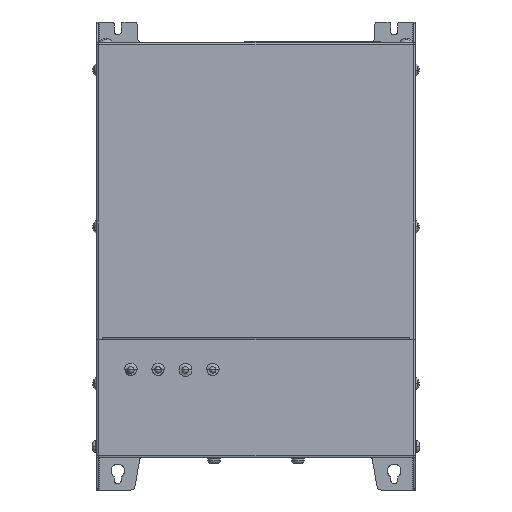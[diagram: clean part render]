
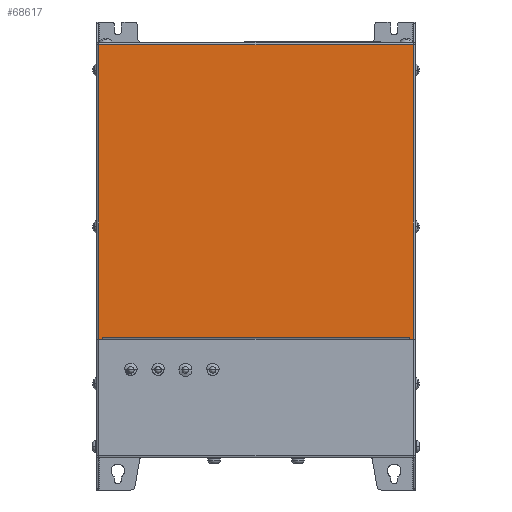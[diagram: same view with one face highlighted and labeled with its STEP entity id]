
A CAD part, front view. The second image highlights one B-rep face of the part: STEP entity #68617.
In plain terms, the highlighted planar face has unit normal (0, -1, 0).
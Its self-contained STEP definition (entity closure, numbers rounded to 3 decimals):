
#67959=DIRECTION('',(0.,0.,1.));
#67960=VECTOR('',#67959,215.9);
#67961=CARTESIAN_POINT('',(488.457,1198.606,-217.3));
#67962=LINE('',#67961,#67960);
#67967=CARTESIAN_POINT('',(260.457,1198.606,-216.8));
#67968=CARTESIAN_POINT('',(260.453,1198.606,
-216.895));
#67969=CARTESIAN_POINT('',(260.411,1198.606,
-217.059));
#67970=CARTESIAN_POINT('',(260.216,1198.606,
-217.254));
#67971=CARTESIAN_POINT('',(260.052,1198.606,
-217.297));
#67972=CARTESIAN_POINT('',(259.957,1198.606,-217.3));
#67974=DIRECTION('',(-1.,0.,0.));
#67975=VECTOR('',#67974,2.);
#67976=CARTESIAN_POINT('',(259.957,1198.606,-217.3));
#67977=LINE('',#67976,#67975);
#67978=DIRECTION('',(0.,0.,1.));
#67979=VECTOR('',#67978,0.1);
#67980=CARTESIAN_POINT('',(257.957,1198.606,-1.4));
#67981=LINE('',#67980,#67979);
#67982=DIRECTION('',(0.,0.,-1.));
#67983=VECTOR('',#67982,0.1);
#67984=CARTESIAN_POINT('',(488.457,1198.606,-1.3));
#67985=LINE('',#67984,#67983);
#67986=DIRECTION('',(-1.,0.,0.));
#67987=VECTOR('',#67986,2.);
#67988=CARTESIAN_POINT('',(488.457,1198.606,-217.3));
#67989=LINE('',#67988,#67987);
#67990=CARTESIAN_POINT('',(486.457,1198.606,-217.3));
#67991=CARTESIAN_POINT('',(486.362,1198.606,
-217.297));
#67992=CARTESIAN_POINT('',(486.197,1198.606,
-217.255));
#67993=CARTESIAN_POINT('',(486.002,1198.606,
-217.059));
#67994=CARTESIAN_POINT('',(485.96,1198.606,
-216.895));
#67995=CARTESIAN_POINT('',(485.957,1198.606,-216.8));
#67997=DIRECTION('',(0.,0.,1.));
#67998=VECTOR('',#67997,1.);
#67999=CARTESIAN_POINT('',(485.957,1198.606,-216.8));
#68000=LINE('',#67999,#67998);
#68001=DIRECTION('',(-1.,0.,0.));
#68002=VECTOR('',#68001,0.3);
#68003=CARTESIAN_POINT('',(485.957,1198.606,-215.8));
#68004=LINE('',#68003,#68002);
#68005=DIRECTION('',(0.,0.,-1.));
#68006=VECTOR('',#68005,0.5);
#68007=CARTESIAN_POINT('',(485.657,1198.606,-215.8));
#68008=LINE('',#68007,#68006);
#68009=DIRECTION('',(0.,0.,1.));
#68010=VECTOR('',#68009,0.5);
#68011=CARTESIAN_POINT('',(260.757,1198.606,-216.3));
#68012=LINE('',#68011,#68010);
#68013=DIRECTION('',(-1.,0.,0.));
#68014=VECTOR('',#68013,0.3);
#68015=CARTESIAN_POINT('',(260.757,1198.606,-215.8));
#68016=LINE('',#68015,#68014);
#68017=DIRECTION('',(0.,0.,-1.));
#68018=VECTOR('',#68017,1.);
#68019=CARTESIAN_POINT('',(260.457,1198.606,-215.8));
#68020=LINE('',#68019,#68018);
#68030=DIRECTION('',(0.,0.,-1.));
#68031=VECTOR('',#68030,215.9);
#68032=CARTESIAN_POINT('',(257.957,1198.606,-1.4));
#68033=LINE('',#68032,#68031);
#68071=DIRECTION('',(-1.,0.,0.));
#68072=VECTOR('',#68071,230.5);
#68073=CARTESIAN_POINT('',(488.457,1198.606,-1.3));
#68074=LINE('',#68073,#68072);
#68385=DIRECTION('',(1.,0.,0.));
#68386=VECTOR('',#68385,224.9);
#68387=CARTESIAN_POINT('',(260.757,1198.606,-216.3));
#68388=LINE('',#68387,#68386);
#68467=VERTEX_POINT('',#67967);
#68468=VERTEX_POINT('',#67972);
#68469=CARTESIAN_POINT('',(257.957,1198.606,-217.3));
#68470=VERTEX_POINT('',#68469);
#68471=CARTESIAN_POINT('',(257.957,1198.606,-1.4));
#68472=CARTESIAN_POINT('',(257.957,1198.606,-1.3));
#68473=VERTEX_POINT('',#68471);
#68474=VERTEX_POINT('',#68472);
#68475=CARTESIAN_POINT('',(488.457,1198.606,-1.3));
#68476=CARTESIAN_POINT('',(488.457,1198.606,-1.4));
#68477=VERTEX_POINT('',#68475);
#68478=VERTEX_POINT('',#68476);
#68479=CARTESIAN_POINT('',(488.457,1198.606,-217.3));
#68480=CARTESIAN_POINT('',(486.457,1198.606,-217.3));
#68481=VERTEX_POINT('',#68479);
#68482=VERTEX_POINT('',#68480);
#68483=VERTEX_POINT('',#67995);
#68484=CARTESIAN_POINT('',(485.957,1198.606,-215.8));
#68485=VERTEX_POINT('',#68484);
#68486=CARTESIAN_POINT('',(485.657,1198.606,-215.8));
#68487=VERTEX_POINT('',#68486);
#68488=CARTESIAN_POINT('',(485.657,1198.606,-216.3));
#68489=VERTEX_POINT('',#68488);
#68490=CARTESIAN_POINT('',(260.757,1198.606,-216.3));
#68491=CARTESIAN_POINT('',(260.757,1198.606,-215.8));
#68492=VERTEX_POINT('',#68490);
#68493=VERTEX_POINT('',#68491);
#68494=CARTESIAN_POINT('',(260.457,1198.606,-215.8));
#68495=VERTEX_POINT('',#68494);
#68579=CARTESIAN_POINT('',(489.957,1198.606,-232.8));
#68580=DIRECTION('',(0.,-1.,0.));
#68581=DIRECTION('',(0.,0.,1.));
#68582=AXIS2_PLACEMENT_3D('',#68579,#68580,#68581);
#68583=PLANE('',#68582);
#68585=ORIENTED_EDGE('',*,*,#68584,.T.);
#68587=ORIENTED_EDGE('',*,*,#68586,.T.);
#68589=ORIENTED_EDGE('',*,*,#68588,.F.);
#68591=ORIENTED_EDGE('',*,*,#68590,.T.);
#68593=ORIENTED_EDGE('',*,*,#68592,.F.);
#68595=ORIENTED_EDGE('',*,*,#68594,.T.);
#68596=ORIENTED_EDGE('',*,*,#68564,.F.);
#68598=ORIENTED_EDGE('',*,*,#68597,.T.);
#68600=ORIENTED_EDGE('',*,*,#68599,.T.);
#68602=ORIENTED_EDGE('',*,*,#68601,.T.);
#68604=ORIENTED_EDGE('',*,*,#68603,.T.);
#68606=ORIENTED_EDGE('',*,*,#68605,.T.);
#68608=ORIENTED_EDGE('',*,*,#68607,.F.);
#68610=ORIENTED_EDGE('',*,*,#68609,.T.);
#68612=ORIENTED_EDGE('',*,*,#68611,.T.);
#68614=ORIENTED_EDGE('',*,*,#68613,.T.);
#68615=EDGE_LOOP('',(#68585,#68587,#68589,#68591,#68593,#68595,#68596,#68598,
#68600,#68602,#68604,#68606,#68608,#68610,#68612,#68614));
#68616=FACE_OUTER_BOUND('',#68615,.F.);
#68617=ADVANCED_FACE('',(#68616),#68583,.T.);
#67973=B_SPLINE_CURVE_WITH_KNOTS('',3,(#67967,#67968,#67969,#67970,#67971,
#67972),.UNSPECIFIED.,.F.,.F.,(4,1,1,4),(0.,0.333,
0.667,1.),.UNSPECIFIED.);
#67996=B_SPLINE_CURVE_WITH_KNOTS('',3,(#67990,#67991,#67992,#67993,#67994,
#67995),.UNSPECIFIED.,.F.,.F.,(4,1,1,4),(0.,0.333,
0.667,1.),.UNSPECIFIED.);
#68564=EDGE_CURVE('',#68481,#68478,#67962,.T.);
#68584=EDGE_CURVE('',#68467,#68468,#67973,.T.);
#68586=EDGE_CURVE('',#68468,#68470,#67977,.T.);
#68588=EDGE_CURVE('',#68473,#68470,#68033,.T.);
#68590=EDGE_CURVE('',#68473,#68474,#67981,.T.);
#68592=EDGE_CURVE('',#68477,#68474,#68074,.T.);
#68594=EDGE_CURVE('',#68477,#68478,#67985,.T.);
#68597=EDGE_CURVE('',#68481,#68482,#67989,.T.);
#68599=EDGE_CURVE('',#68482,#68483,#67996,.T.);
#68601=EDGE_CURVE('',#68483,#68485,#68000,.T.);
#68603=EDGE_CURVE('',#68485,#68487,#68004,.T.);
#68605=EDGE_CURVE('',#68487,#68489,#68008,.T.);
#68607=EDGE_CURVE('',#68492,#68489,#68388,.T.);
#68609=EDGE_CURVE('',#68492,#68493,#68012,.T.);
#68611=EDGE_CURVE('',#68493,#68495,#68016,.T.);
#68613=EDGE_CURVE('',#68495,#68467,#68020,.T.);
